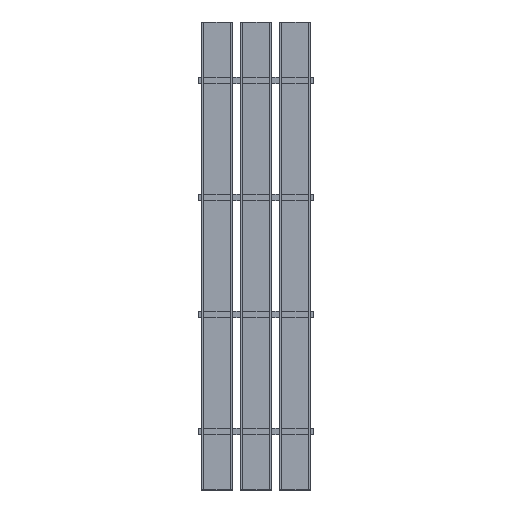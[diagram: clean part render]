
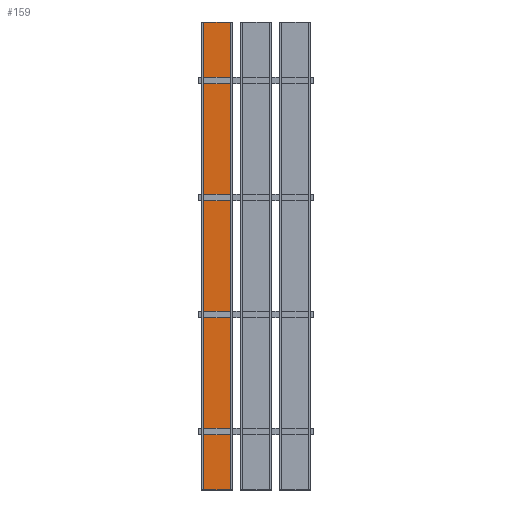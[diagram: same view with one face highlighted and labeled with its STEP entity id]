
A CAD part, top view. The second image highlights one B-rep face of the part: STEP entity #159.
In plain terms, the highlighted planar face has unit normal (0, 0, 1).
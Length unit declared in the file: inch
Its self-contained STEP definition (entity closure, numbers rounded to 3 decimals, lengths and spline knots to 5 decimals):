
#159=ADVANCED_FACE('',(#309),#2561,.T.);
#309=FACE_OUTER_BOUND('',#475,.T.);
#475=EDGE_LOOP('',(#1016,#1017,#1018,#1019));
#1016=ORIENTED_EDGE('',*,*,#1646,.F.);
#1017=ORIENTED_EDGE('',*,*,#1666,.T.);
#1018=ORIENTED_EDGE('',*,*,#1652,.F.);
#1019=ORIENTED_EDGE('',*,*,#1663,.F.);
#1646=EDGE_CURVE('',#2378,#2379,#2054,.T.);
#1652=EDGE_CURVE('',#2384,#2385,#2060,.T.);
#1663=EDGE_CURVE('',#2379,#2384,#2071,.T.);
#1666=EDGE_CURVE('',#2378,#2385,#2074,.T.);
#2054=B_SPLINE_CURVE_WITH_KNOTS('',1,(#3973,#3974),.UNSPECIFIED.,.F.,.F.,
(2,2),(0.,96.),.UNSPECIFIED.);
#2060=B_SPLINE_CURVE_WITH_KNOTS('',1,(#3985,#3986),.UNSPECIFIED.,.F.,.F.,
(2,2),(0.,96.),.UNSPECIFIED.);
#2071=B_SPLINE_CURVE_WITH_KNOTS('',1,(#4007,#4008),.UNSPECIFIED.,.F.,.F.,
(2,2),(0.,5.5),.UNSPECIFIED.);
#2074=B_SPLINE_CURVE_WITH_KNOTS('',1,(#4013,#4014),.UNSPECIFIED.,.F.,.F.,
(2,2),(0.,5.5),.UNSPECIFIED.);
#2378=VERTEX_POINT('',#3347);
#2379=VERTEX_POINT('',#3348);
#2384=VERTEX_POINT('',#3353);
#2385=VERTEX_POINT('',#3354);
#2561=PLANE('',#2802);
#2802=AXIS2_PLACEMENT_3D('',#3108,#2955,$);
#2955=DIRECTION('',(0.,0.,1.));
#3108=CARTESIAN_POINT('',(-12.69528,57.60472,-1.5));
#3347=CARTESIAN_POINT('',(-18.75,-48.,-1.5));
#3348=CARTESIAN_POINT('',(-18.75,48.,-1.5));
#3353=CARTESIAN_POINT('',(-13.25,48.,-1.5));
#3354=CARTESIAN_POINT('',(-13.25,-48.,-1.5));
#3973=CARTESIAN_POINT('',(-18.75,-48.,-1.5));
#3974=CARTESIAN_POINT('',(-18.75,48.,-1.5));
#3985=CARTESIAN_POINT('',(-13.25,48.,-1.5));
#3986=CARTESIAN_POINT('',(-13.25,-48.,-1.5));
#4007=CARTESIAN_POINT('',(-18.75,48.,-1.5));
#4008=CARTESIAN_POINT('',(-13.25,48.,-1.5));
#4013=CARTESIAN_POINT('',(-18.75,-48.,-1.5));
#4014=CARTESIAN_POINT('',(-13.25,-48.,-1.5));
